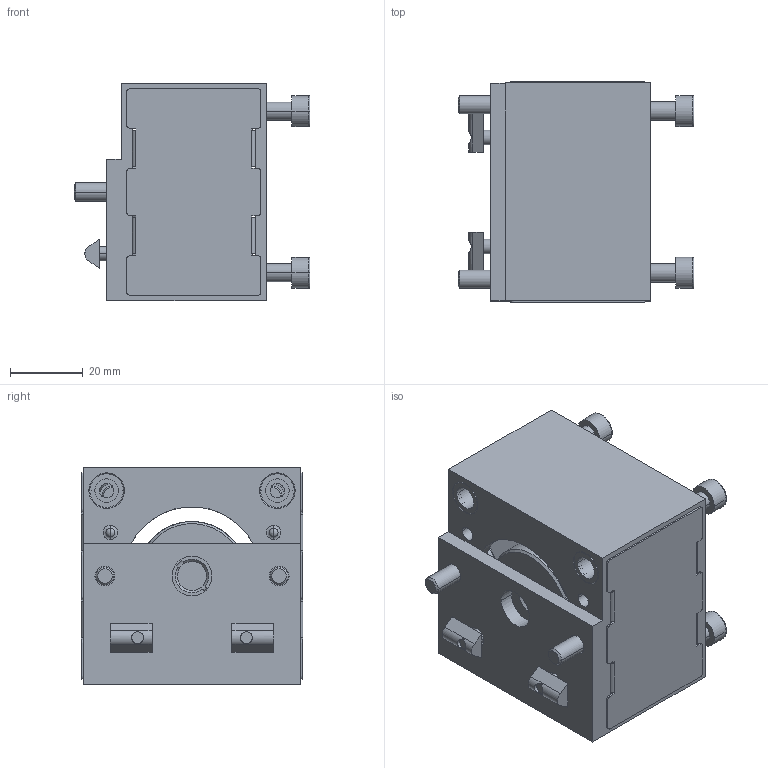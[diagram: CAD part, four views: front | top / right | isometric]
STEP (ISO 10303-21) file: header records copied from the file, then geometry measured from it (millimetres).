
FILE_DESCRIPTION((''),'2;1');
FILE_NAME('L4CB0007_SW0001','2005-05-19T',('OZ38835'),(''),'PRO/ENGINEER BY PARAMETRIC TECHNOLOGY CORPORATION, 2003400','PRO/ENGINEER BY PARAMETRIC TECHNOLOGY CORPORATION, 2003400','');
FILE_SCHEMA(('AUTOMOTIVE_DESIGN_CC2 { 1 2 10303 214 -1 1 5 2 }'));
Length unit declared in the file: millimetre
Products named in the file (1): L4CB0007_SW0001
Bounding box: 65 x 61 x 60 mm (x, y, z)
Volume: 62357.8 mm3; surface area: 45675.6 mm2
Topology: 2 solids, 2 shells, 757 faces, 1954 edges, 1218 vertices
Faces by surface type: plane 317, cylinder 258, cone 78, torus 76, sphere 28
Entity records: 34529 total; most frequent: CARTESIAN_POINT 5829, DIRECTION 4172, ORIENTED_EDGE 3852, PRESENTATION_STYLE_ASSIGNMENT 2458, STYLED_ITEM 1928, CURVE_STYLE 1926, EDGE_CURVE 1926, AXIS2_PLACEMENT_3D 1603
